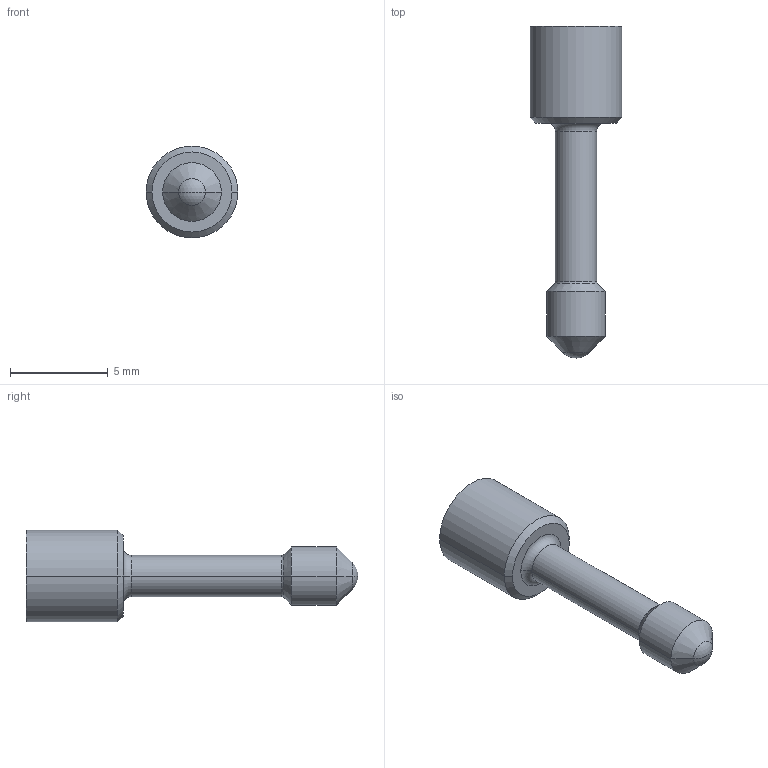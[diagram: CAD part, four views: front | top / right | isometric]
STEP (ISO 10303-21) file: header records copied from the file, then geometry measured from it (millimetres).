
FILE_DESCRIPTION (( 'STEP AP214' ), '1' );
FILE_NAME ('IA 471720.STEP', '2013-10-01T11:11:52', ( '' ), ( '' ), 'SwSTEP 2.0', 'SolidWorks 2011', '' );
FILE_SCHEMA (( 'AUTOMOTIVE_DESIGN' ));
Length unit declared in the file: millimetre
Products named in the file (2): IA 471720
Assembly tree (1 placements, depth 2):
  IA 471720
    IA 471720
Bounding box: 4.7 x 16.97 x 4.7 mm (x, y, z)
Volume: 135.2 mm3; surface area: 196.4 mm2
Topology: 1 solids, 1 shells, 54 faces, 128 edges, 81 vertices
Faces by surface type: cylinder 21, plane 21, cone 6, torus 4, sphere 2
Entity records: 1652 total; most frequent: DIRECTION 300, CARTESIAN_POINT 267, ORIENTED_EDGE 256, EDGE_CURVE 128, AXIS2_PLACEMENT_3D 114, VERTEX_POINT 81, LINE 72, VECTOR 72
